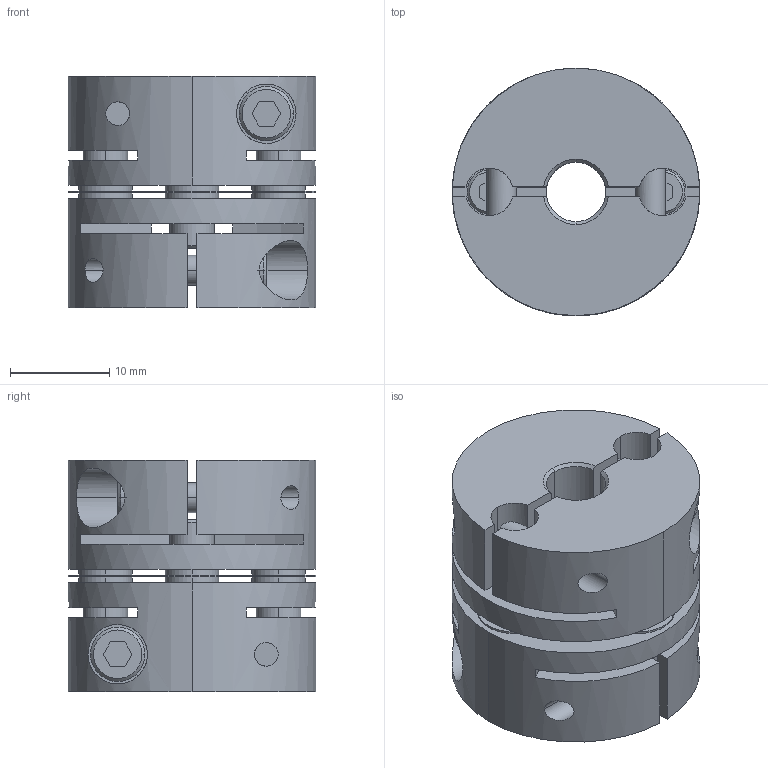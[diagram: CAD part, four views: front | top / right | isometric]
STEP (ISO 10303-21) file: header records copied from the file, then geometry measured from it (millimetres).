
FILE_DESCRIPTION((''),'2;1');
FILE_NAME('LAS-25C-6×9.525.stp','2011-08-10T10:19:00',(''),(''),'AutoCAD STEP 2000i','AutoCAD 2000i',', , ');
FILE_SCHEMA(('CONFIG_CONTROL_DESIGN'));
Length unit declared in the file: millimetre
Products named in the file (5): LAS-25C-6×6; 忣兜1; LA-2502-D06-1; LA-2502-D06; LAS25-ITA
Assembly tree (4 placements, depth 2):
  LAS-25C-6×6
    忣兜1
    LA-2502-D06-1
    LA-2502-D06
    LAS25-ITA
Bounding box: 25 x 25 x 23.4 mm (x, y, z)
Volume: 8442.9 mm3; surface area: 6852.7 mm2
Topology: 1 solids, 1 shells, 244 faces, 648 edges, 424 vertices
Faces by surface type: plane 112, cylinder 104, cone 28
Entity records: 8499 total; most frequent: CARTESIAN_POINT 2121, DIRECTION 1326, ORIENTED_EDGE 1296, EDGE_CURVE 648, AXIS2_PLACEMENT_3D 485, VERTEX_POINT 424, VECTOR 356, LINE 356
